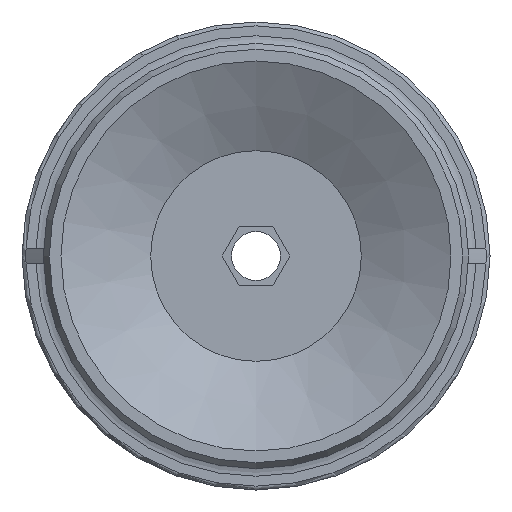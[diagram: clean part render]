
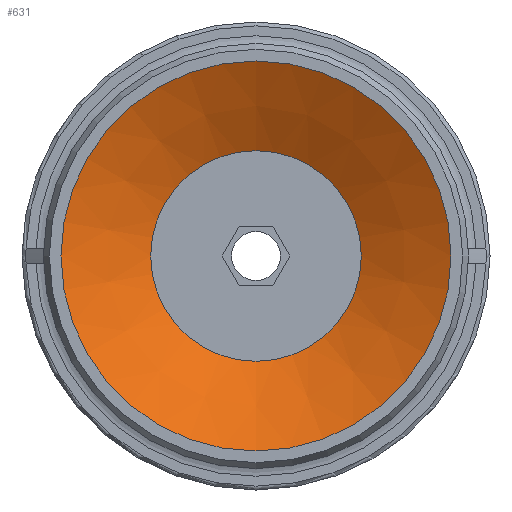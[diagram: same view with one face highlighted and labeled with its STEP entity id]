
A CAD part, front view. The second image highlights one B-rep face of the part: STEP entity #631.
In plain terms, the highlighted conical face has half-angle 61.631 degrees and reference radius 5.4 mm.
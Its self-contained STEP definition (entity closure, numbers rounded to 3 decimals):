
#631=ADVANCED_FACE('',(#938,#939),#940,.F.);
#938=FACE_BOUND('',#1289,.T.);
#939=FACE_OUTER_BOUND('',#1290,.T.);
#940=CONICAL_SURFACE('',#1291,5.4,1.076);
#1289=EDGE_LOOP('',(#2175));
#1290=EDGE_LOOP('',(#2176));
#1291=AXIS2_PLACEMENT_3D('',#2177,#2178,#2179);
#2175=ORIENTED_EDGE('',*,*,#2554,.F.);
#2176=ORIENTED_EDGE('',*,*,#2576,.T.);
#2177=CARTESIAN_POINT('',(0.0,2.484,0.0));
#2178=DIRECTION('',(-0.0,-1.0,0.));
#2179=DIRECTION('',(0.0,0.,-1.0));
#2554=EDGE_CURVE('',#2978,#2978,#2979,.T.);
#2576=EDGE_CURVE('',#3012,#3012,#3013,.T.);
#2978=VERTEX_POINT('',#3866);
#2979=CIRCLE('',#3867,5.4);
#3012=VERTEX_POINT('',#3912);
#3013=CIRCLE('',#3913,10.0);
#3866=CARTESIAN_POINT('',(0.0,2.484,-5.4));
#3867=AXIS2_PLACEMENT_3D('',#4318,#4319,#4320);
#3912=CARTESIAN_POINT('',(0.0,0.,-10.0));
#3913=AXIS2_PLACEMENT_3D('',#4360,#4361,#4362);
#4318=CARTESIAN_POINT('',(0.0,2.484,0.0));
#4319=DIRECTION('',(0.0,-1.0,0.));
#4320=DIRECTION('',(0.0,0.,-1.0));
#4360=CARTESIAN_POINT('',(0.0,0.0,0.0));
#4361=DIRECTION('',(0.0,-1.0,0.));
#4362=DIRECTION('',(0.0,0.,-1.0));
